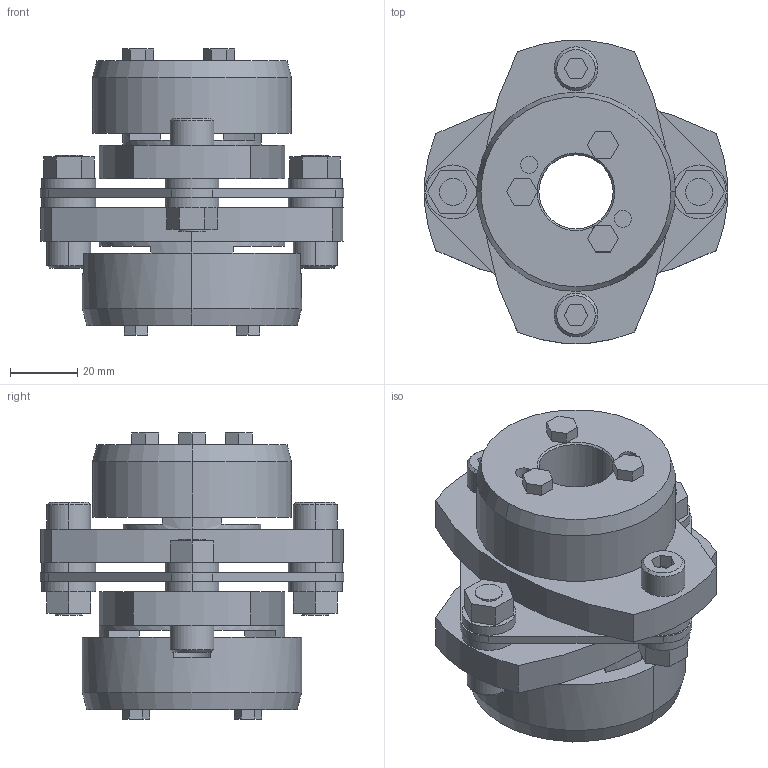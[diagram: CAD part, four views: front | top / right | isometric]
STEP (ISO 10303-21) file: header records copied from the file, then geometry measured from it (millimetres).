
FILE_DESCRIPTION((''),'2;1');
FILE_NAME('LCS-90T7-22×35.stp','2011-09-09T10:07:27',(''),(''),'AutoCAD STEP 2000i','AutoCAD 2000i',', , ');
FILE_SCHEMA(('CONFIG_CONTROL_DESIGN'));
Length unit declared in the file: millimetre
Products named in the file (11): LCS-90T7-19×35; 忣兜1; LC90T7-T035; LC90T7-T032; LC90T7-T030; LC90T7-T025; LC90T7-T019-1; LC90T7-T019; LC90-B019-1; LC90-B019; LCS90-ITA
Assembly tree (10 placements, depth 2):
  LCS-90T7-19×35
    忣兜1
    LC90T7-T035
    LC90T7-T032
    LC90T7-T030
    LC90T7-T025
    LC90T7-T019-1
    LC90T7-T019
    LC90-B019-1
    LC90-B019
    LCS90-ITA
Bounding box: 90 x 89.94 x 84.8 mm (x, y, z)
Volume: 196896.4 mm3; surface area: 52846 mm2
Topology: 1 solids, 1 shells, 247 faces, 610 edges, 396 vertices
Faces by surface type: plane 145, cylinder 82, cone 20
Entity records: 7589 total; most frequent: DIRECTION 1336, CARTESIAN_POINT 1264, ORIENTED_EDGE 1220, EDGE_CURVE 610, AXIS2_PLACEMENT_3D 468, VECTOR 400, LINE 400, VERTEX_POINT 396
